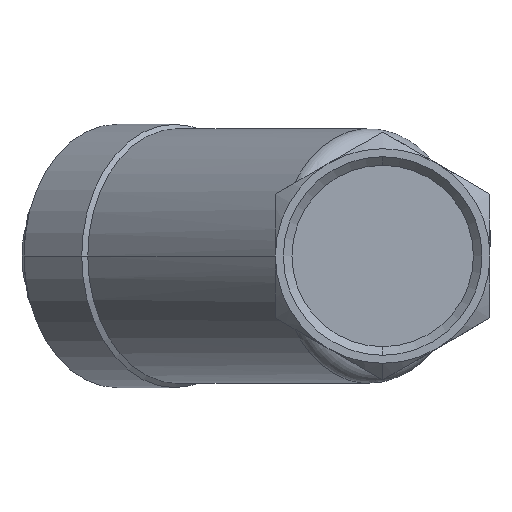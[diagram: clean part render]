
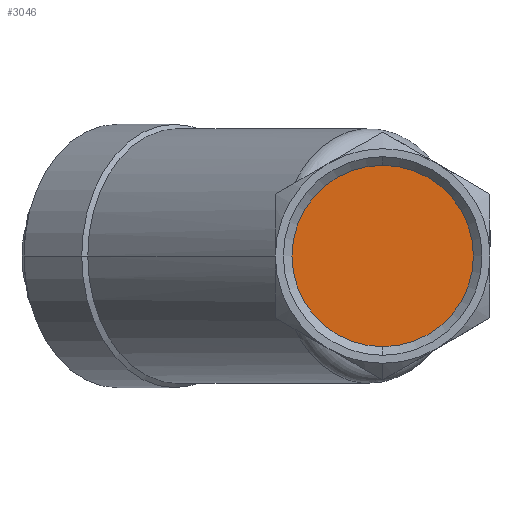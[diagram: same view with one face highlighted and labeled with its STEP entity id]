
A CAD part, left-side view. The second image highlights one B-rep face of the part: STEP entity #3046.
In plain terms, the highlighted planar face has unit normal (-1, 0, 0).
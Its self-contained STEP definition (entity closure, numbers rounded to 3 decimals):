
#41 = DIRECTION ( 'NONE',  ( 0., 0., 1. ) ) ;
#77 = DIRECTION ( 'NONE',  ( -1., 0., 0. ) ) ;
#93 = CARTESIAN_POINT ( 'NONE',  ( -27., 0., 0. ) ) ;
#199 = CARTESIAN_POINT ( 'NONE',  ( -27., 0., -15.85 ) ) ;
#226 = CARTESIAN_POINT ( 'NONE',  ( -27., 0., 15.85 ) ) ;
#233 = AXIS2_PLACEMENT_3D ( 'NONE', #1503, #667, #688 ) ;
#589 = EDGE_LOOP ( 'NONE', ( #1888, #1844 ) ) ;
#655 = FACE_OUTER_BOUND ( 'NONE', #589, .T. ) ;
#667 = DIRECTION ( 'NONE',  ( -1., 0., 0. ) ) ;
#688 = DIRECTION ( 'NONE',  ( 0., 0., 1. ) ) ;
#773 = AXIS2_PLACEMENT_3D ( 'NONE', #1123, #1022, #3584 ) ;
#1022 = DIRECTION ( 'NONE',  ( -1., 0., 0. ) ) ;
#1069 = AXIS2_PLACEMENT_3D ( 'NONE', #93, #77, #41 ) ;
#1123 = CARTESIAN_POINT ( 'NONE',  ( -27., 0., 0. ) ) ;
#1503 = CARTESIAN_POINT ( 'NONE',  ( -27., 15.85, 0. ) ) ;
#1518 = VERTEX_POINT ( 'NONE', #226 ) ;
#1557 = VERTEX_POINT ( 'NONE', #199 ) ;
#1844 = ORIENTED_EDGE ( 'NONE', *, *, #2517, .T. ) ;
#1888 = ORIENTED_EDGE ( 'NONE', *, *, #2109, .T. ) ;
#2109 = EDGE_CURVE ( 'NONE', #1518, #1557, #2808, .T. ) ;
#2517 = EDGE_CURVE ( 'NONE', #1557, #1518, #2722, .T. ) ;
#2722 = CIRCLE ( 'NONE', #773, 15.85 ) ;
#2808 = CIRCLE ( 'NONE', #1069, 15.85 ) ;
#3046 = ADVANCED_FACE ( 'NONE', ( #655 ), #3526, .T. ) ;
#3526 = PLANE ( 'NONE',  #233 ) ;
#3584 = DIRECTION ( 'NONE',  ( 0., 0., 1. ) ) ;
